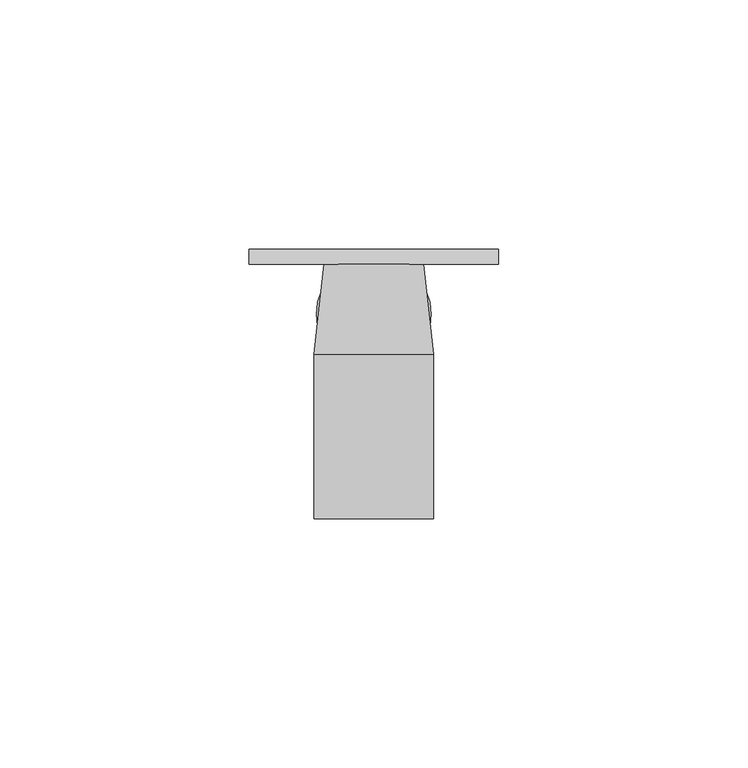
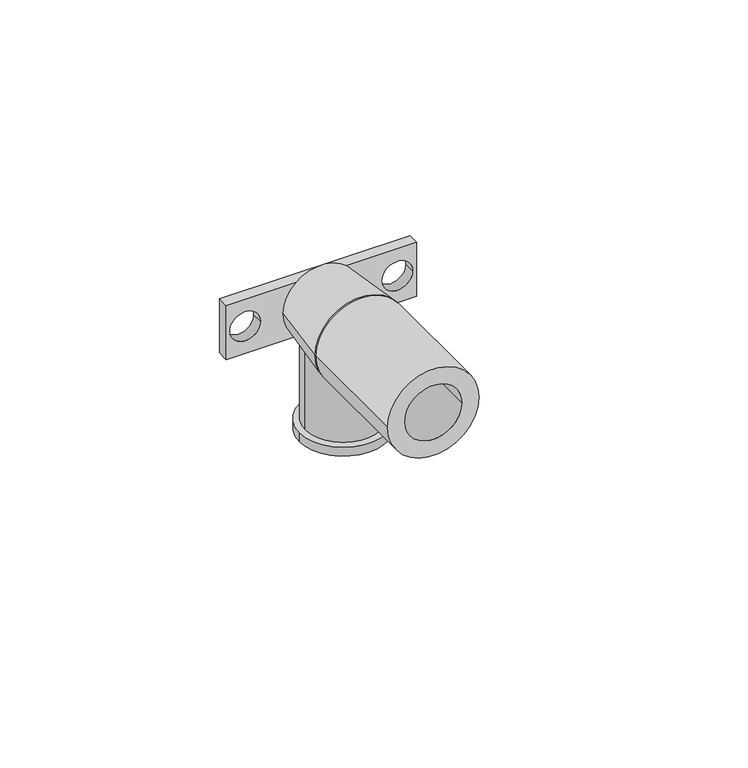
"""IFC4 building model written with IfcOpenShell, lengths in millimetres: pipe fitting geometry, БИР ПЕКС_НПР_Водорозетка : Водорозетка 1/2''x20."""

from ifc_helpers import new_model, si_unit, point, frame, frame_2d, origin, origin_2d, place, context, project, spatial, polyline, circle_curve, trimmed, segment, composite_curve, outline, extrude, source, transform, mapped, element, save
from ifc_brep_helpers import plane_surface, revolved_surface, advanced_brep


def pipe_fitting_494e9d26(model_context):
    return source(origin(), model_context, "Body", "SolidModel", [
        advanced_brep(
        [(-10.0, -3.0, 0.0), (10.0, -3.0, 0.0), (-12.0, -21.0, 0.0), (12.0, -21.0, 0.0)],
        [
            (0, 1, circle_curve(frame((0.0, -3.0, 0.0), z_axis=(0.0, 1.0, 0.0), x_axis=(-1.0, 0.0, 0.0)), 10.0)),
            (1, 0, circle_curve(frame((0.0, -3.0, 0.0), z_axis=(0.0, 1.0, 0.0), x_axis=(1.0, 0.0, 0.0)), 10.0)),
            (2, 3, circle_curve(frame((0.0, -21.0, 0.0), z_axis=(0.0, -1.0, 0.0), x_axis=(1.0, 0.0, 0.0)), 12.0)),
            (3, 2, circle_curve(frame((0.0, -21.0, 0.0), z_axis=(0.0, -1.0, 0.0), x_axis=(-1.0, 0.0, 0.0)), 12.0)),
            (2, 0),
            (1, 3),
        ],
        [
            plane_surface(frame((0.0, -3.0, 0.0), z_axis=(0.0, 1.0, 0.0), x_axis=(0.0, 0.0, -1.0))),
            plane_surface(frame((0.0, -21.0, 0.0), z_axis=(0.0, -1.0, 0.0), x_axis=(0.0, 0.0, -1.0))),
            revolved_surface(polyline([(10.0, -3.0, 0.0), (12.0, -21.0, 0.0)]), (0.0, 87.0, 0.0), (0.0, -1.0, 0.0)),
            revolved_surface(polyline([(-10.0, -3.0, 0.0), (-12.0, -21.0, 0.0)]), (0.0, 87.0, 0.0), (0.0, -1.0, 0.0)),
        ],
        [
            (0, [[1, 2]]),
            (1, [[3, 4]]),
            (2, [[-3, 5, -2, 6]]),
            (3, [[-4, -6, -1, -5]]),
        ],
    ),
        extrude(outline(composite_curve([segment(trimmed(circle_curve(origin_2d(), 12.0), [point((0.0, -12.0))], [point((0.0, 12.0))], False, "CARTESIAN"), True, "CONTINUOUS"), segment(trimmed(circle_curve(origin_2d(), 12.0), [point((0.0, 12.0))], [point((0.0, -12.0))], False, "CARTESIAN"), True, "CONTINUOUS")], self_intersect=False), holes=[composite_curve([segment(trimmed(circle_curve(origin_2d(), 7.5), [point((0.0, -7.5))], [point((0.0, 7.5))], True, "CARTESIAN"), True, "CONTINUOUS"), segment(trimmed(circle_curve(origin_2d(), 7.5), [point((0.0, 7.5))], [point((0.0, -7.5))], True, "CARTESIAN"), True, "CONTINUOUS")], self_intersect=False)]), frame((0.0, -54.0, 0.0), z_axis=(0.0, 1.0, 0.0), x_axis=(0.0, 0.0, 1.0)), (0.0, 0.0, 1.0), 33.0),
        extrude(outline(composite_curve([segment(trimmed(circle_curve(frame_2d((0.0, -13.0)), 11.5), [point((-11.5, -13.0))], [point((11.5, -13.0))], False, "CARTESIAN"), True, "CONTINUOUS"), segment(trimmed(circle_curve(frame_2d((0.0, -13.0)), 11.5), [point((11.5, -13.0))], [point((-11.5, -13.0))], False, "CARTESIAN"), True, "CONTINUOUS")], self_intersect=False), holes=[composite_curve([segment(trimmed(circle_curve(frame_2d((0.0, -13.0)), 8.5), [point((-8.5, -13.0))], [point((8.5, -13.0))], True, "CARTESIAN"), True, "CONTINUOUS"), segment(trimmed(circle_curve(frame_2d((0.0, -13.0)), 8.5), [point((8.5, -13.0))], [point((-8.5, -13.0))], True, "CARTESIAN"), True, "CONTINUOUS")], self_intersect=False)]), frame((0.0, 0.0, -29.0), z_axis=(0.0, 0.0, 1.0), x_axis=(1.0, 0.0, 0.0)), (0.0, 0.0, 1.0), 2.5),
        extrude(outline(composite_curve([segment(trimmed(circle_curve(frame_2d((0.0, -13.0)), 10.0), [point((-10.0, -13.0))], [point((10.0, -13.0))], False, "CARTESIAN"), True, "CONTINUOUS"), segment(trimmed(circle_curve(frame_2d((0.0, -13.0)), 10.0), [point((10.0, -13.0))], [point((-10.0, -13.0))], False, "CARTESIAN"), True, "CONTINUOUS")], self_intersect=False), holes=[composite_curve([segment(trimmed(circle_curve(frame_2d((0.0, -13.0)), 8.5), [point((-8.5, -13.0))], [point((8.5, -13.0))], True, "CARTESIAN"), True, "CONTINUOUS"), segment(trimmed(circle_curve(frame_2d((0.0, -13.0)), 8.5), [point((8.5, -13.0))], [point((-8.5, -13.0))], True, "CARTESIAN"), True, "CONTINUOUS")], self_intersect=False)]), frame((0.0, 0.0, -29.0), z_axis=(0.0, 0.0, 1.0), x_axis=(1.0, 0.0, 0.0)), (0.0, 0.0, 1.0), 29.0),
        extrude(outline(polyline([(7.5, 25.0), (7.5, -25.0), (-7.5, -25.0), (-7.5, 25.0), (7.5, 25.0)]), holes=[composite_curve([segment(trimmed(circle_curve(frame_2d((0.0, -20.0)), 4.0), [point((0.0, -24.0))], [point((0.0, -16.0))], True, "CARTESIAN"), True, "CONTINUOUS"), segment(trimmed(circle_curve(frame_2d((0.0, -20.0)), 4.0), [point((0.0, -16.0))], [point((0.0, -24.0))], True, "CARTESIAN"), True, "CONTINUOUS")], self_intersect=False), composite_curve([segment(trimmed(circle_curve(frame_2d((0.0, 20.0)), 4.0), [point((0.0, 16.0))], [point((0.0, 24.0))], True, "CARTESIAN"), True, "CONTINUOUS"), segment(trimmed(circle_curve(frame_2d((0.0, 20.0)), 4.0), [point((0.0, 24.0))], [point((0.0, 16.0))], True, "CARTESIAN"), True, "CONTINUOUS")], self_intersect=False)]), frame((0.0, -3.0, 0.0), z_axis=(0.0, 1.0, 0.0), x_axis=(0.0, 0.0, 1.0)), (0.0, 0.0, 1.0), 3.0),
    ])


if __name__ == "__main__":
    model = new_model("IFC4")
    model_context = context("Model", 3, world=origin())
    ifc_project = project(units=[si_unit("LENGTHUNIT", "METRE", prefix="MILLI")], contexts=[model_context])
    site = spatial("IfcSite", under=ifc_project)
    building = spatial("IfcBuilding", under=site)
    placement = place(None, origin())
    pipe_fitting_shape = pipe_fitting_494e9d26(model_context)
    element("IfcPipeFitting", 1, ObjectType="БИР ПЕКС_НПР_Водорозетка : Водорозетка 1/2''x20", at=placement, inside=building, context=model_context, shape_type="MappedRepresentation", body=[
        mapped(pipe_fitting_shape, transform((0.0, 0.0, 0.0), x_axis=(1.0, 0.0, 0.0), y_axis=(0.0, 1.0, 0.0), z_axis=(0.0, 0.0, 1.0))),
    ])
    save(model, "model.ifc")
